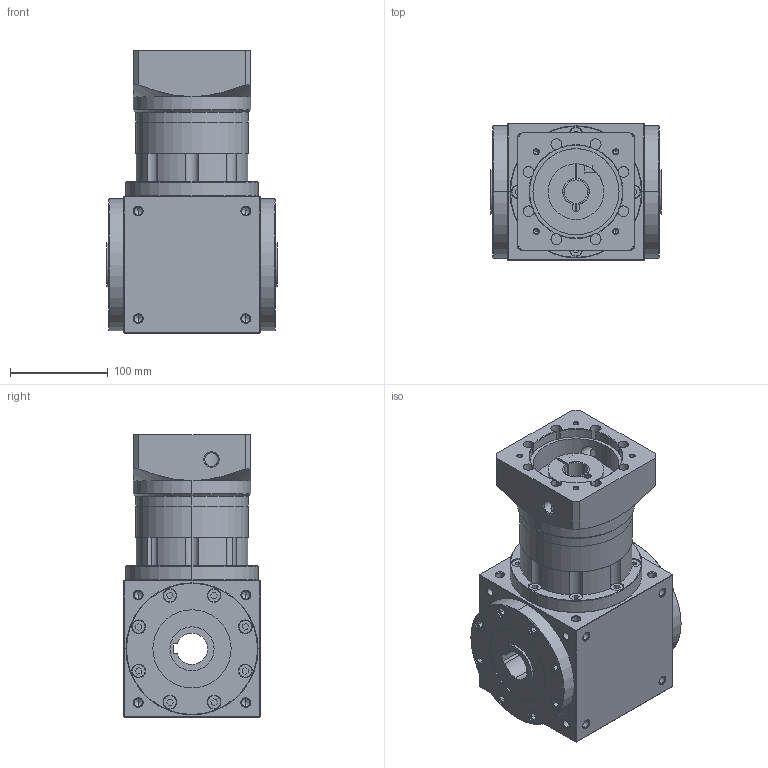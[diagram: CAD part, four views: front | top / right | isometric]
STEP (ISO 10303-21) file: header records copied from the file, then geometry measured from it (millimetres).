
FILE_DESCRIPTION (( 'STEP AP203' ), '1' );
FILE_NAME ('AT140-FH-24-95-115M6.STEP', '2025-08-15T06:59:49', ( 'Windows User' ), ( 'P R C' ), 'SwSTEP 2.0', 'SolidWorks 2016', '' );
FILE_SCHEMA (( 'CONFIG_CONTROL_DESIGN' ));
Length unit declared in the file: millimetre
Products named in the file (6): AT140-蛌褒眊极-謂怀堤; AT140-蛌倰怀堤楊擘; AT140-单级齿圈; AT140-输入法兰-E-95-M6-115; 输入胀套-27; AT140-FH-24-95-115M6
Assembly tree (5 placements, depth 2):
  AT140-FH-24-95-115M6
    AT140-蛌褒眊极-謂怀堤
    AT140-蛌倰怀堤楊擘
    AT140-单级齿圈
    AT140-输入法兰-E-95-M6-115
    输入胀套-27
Bounding box: 174 x 140 x 289 mm (x, y, z)
Volume: 3420711.6 mm3; surface area: 449409.4 mm2
Topology: 5 solids, 17 shells, 1475 faces, 3748 edges, 2358 vertices
Faces by surface type: plane 773, cylinder 359, cone 244, bspline 99
Entity records: 50709 total; most frequent: CARTESIAN_POINT 15547, ORIENTED_EDGE 7312, DIRECTION 6794, EDGE_CURVE 3656, VECTOR 2430, LINE 2430, VERTEX_POINT 2358, AXIS2_PLACEMENT_3D 2182
